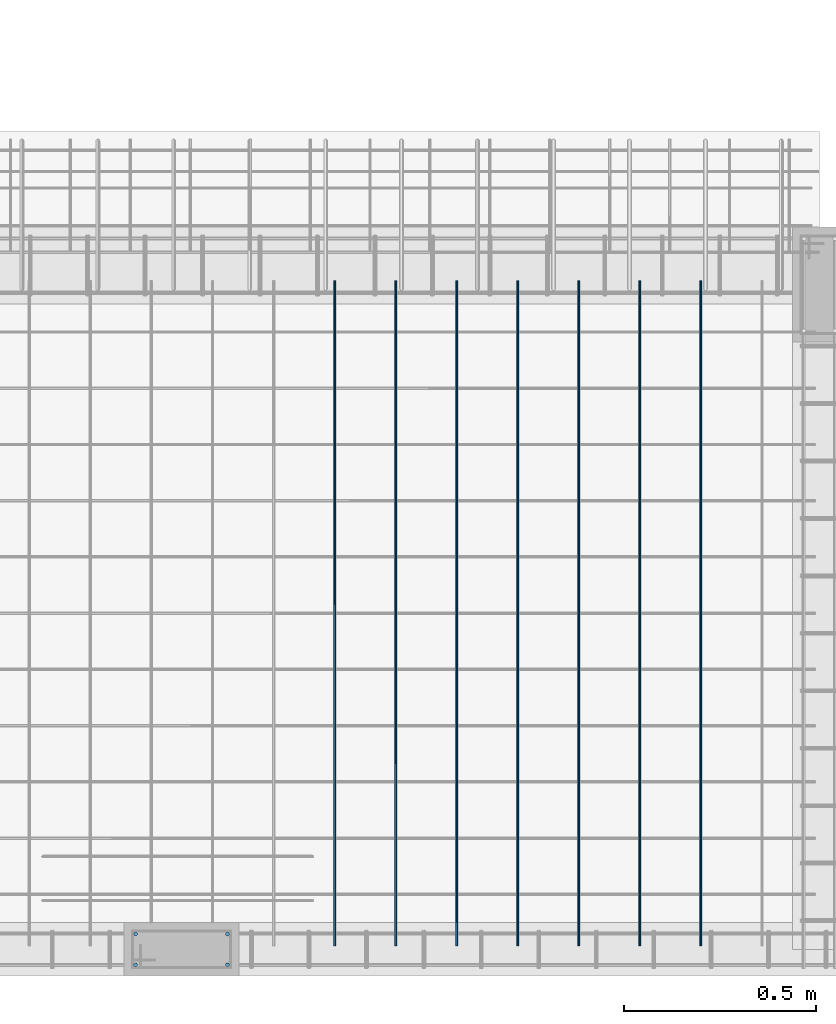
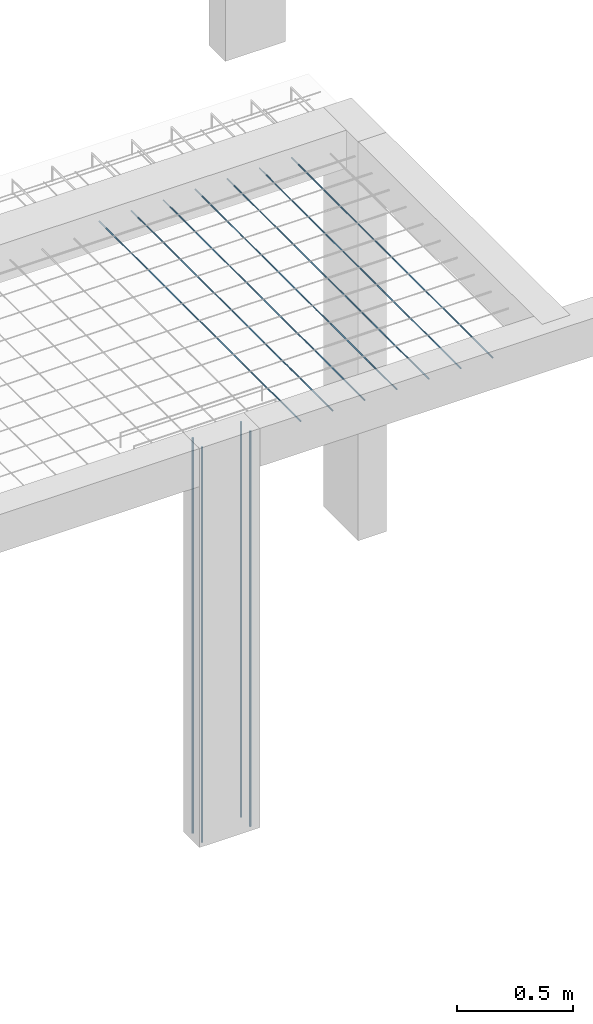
# One storey, part 41 of 236: 11 reinforcing bars.
"""IFC4 building model written with IfcOpenShell, lengths in centimetres."""

from ifc_helpers import new_model, entity, si_unit, derived_unit, frame, origin_with_axes, place, context, project, spatial, element, save


model = new_model("IFC4")

# Units and contexts
model_context = context("Model", 3, precision=1e-05, world=origin_with_axes(), identifier="Body")
ifc_project = project(units=[si_unit("LENGTHUNIT", "METRE", prefix="CENTI"), si_unit("VOLUMEUNIT", "CUBIC_METRE"), si_unit("AREAUNIT", "SQUARE_METRE"), si_unit("POWERUNIT", "WATT"), si_unit("LUMINOUSFLUXUNIT", "LUMEN"), si_unit("ELECTRICCURRENTUNIT", "AMPERE"), si_unit("PRESSUREUNIT", "PASCAL", prefix="KILO"), si_unit("MASSUNIT", "GRAM", prefix="KILO"), si_unit("PLANEANGLEUNIT", "RADIAN"), derived_unit("VOLUMETRICFLOWRATEUNIT", [(si_unit("LENGTHUNIT", "METRE"), 3), (si_unit("TIMEUNIT", "SECOND"), -1)])], contexts=[model_context])

# Site, building, storey
site_placement = place(None, frame((-4000.0, 0.0, 0.0), z_axis=(0.0, 0.0, 1.0), x_axis=(1.0, 0.0, 0.0)))
site = spatial("IfcSite", under=ifc_project, at=site_placement, Name="PADRÃO")
building_placement = place(site_placement, frame((0.0, 0.0, -14.0)))
building = spatial("IfcBuilding", under=site, at=building_placement, Name="CRECHE PRÉ-ESCOLA TIPO 2")
placement_1 = place(building_placement, origin_with_axes())
placement_2 = place(placement_1, frame((0.0, 0.0, 30.0), z_axis=(0.0, 0.0, 1.0), x_axis=(1.0, 0.0, 0.0)))
storey_placement = place(placement_2, frame((0.0, 0.0, 310.0), z_axis=(0.0, 0.0, 1.0), x_axis=(1.0, 0.0, 0.0)))
storey = spatial("IfcBuildingStorey", under=building, at=storey_placement, Name="TERREO", CompositionType="ELEMENT", Elevation=326.0)

# Reinforcing bars
for number, where, z_axis, x_axis, name in (
    (1, (3107.45875, 96.75, -109.5), (0.0, 0.0, 1.0), (1.0, 0.0, 0.0), "L3 - Inferior X"),
    (2, (3187.14625, 96.75, -109.5), (0.0, 0.0, 1.0), (1.0, 0.0, 0.0), "L3 - Inferior X"),
    (3, (3139.33375, 96.75, -109.5), (0.0, 0.0, 1.0), (1.0, 0.0, 0.0), "L3 - Inferior X"),
    (4, (3203.08375, 96.75, -109.5), (0.0, 0.0, 1.0), (1.0, 0.0, 0.0), "L3 - Inferior X"),
    (5, (3123.39625, 96.75, -109.5), (0.0, 0.0, 1.0), (1.0, 0.0, 0.0), "L3 - Inferior X"),
    (6, (3171.20875, 96.75, -109.5), (0.0, 0.0, 1.0), (1.0, 0.0, 0.0), "L3 - Inferior X"),
    (7, (3155.27125, 96.75, -109.5), (0.0, 0.0, 1.0), (1.0, 0.0, 0.0), "L3 - Inferior X"),
):
    element("IfcReinforcingBar", number, at=place(storey_placement, frame(where, z_axis=z_axis, x_axis=x_axis)), inside=storey, Name=name, BarLength=0.0, CrossSectionArea=1.9634954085e-05, NominalDiameter=0.5, PredefinedType="MAIN", context=model_context, shape_type="AdvancedSweptSolid", body=[
        entity("IfcSweptDiskSolid", entity("IfcCompositeCurve", [entity("IfcCompositeCurveSegment", "CONTINUOUS", True, entity("IfcPolyline", [entity("IfcCartesianPoint", [0.0, -86.75, -0.25]), entity("IfcCartesianPoint", [0.0, 86.75, -0.25])]))], False), 0.25),
    ])
for number, where, z_axis, x_axis, name in (
    (8, (3079.5, 5.0, -102.0), (0.0, 0.0, 1.0), (1.0, 0.0, 0.0), "P165 - Longitudinal"),
    (9, (3055.5, 5.0, -102.0), (0.0, 0.0, 1.0), (1.0, 0.0, 0.0), "P165 - Longitudinal"),
    (10, (3055.5, 13.0, -102.0), (0.0, 0.0, 1.0), (1.0, 0.0, 0.0), "P165 - Longitudinal"),
    (11, (3079.5, 13.0, -102.0), (0.0, 0.0, 1.0), (1.0, 0.0, 0.0), "P165 - Longitudinal"),
):
    element("IfcReinforcingBar", number, at=place(storey_placement, frame(where, z_axis=z_axis, x_axis=x_axis)), inside=storey, Name=name, BarLength=0.0, CrossSectionArea=7.853981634e-05, NominalDiameter=1.0, PredefinedType="MAIN", context=model_context, shape_type="AdvancedSweptSolid", body=[
        entity("IfcSweptDiskSolid", entity("IfcCompositeCurve", [entity("IfcCompositeCurveSegment", "CONTINUOUS", True, entity("IfcPolyline", [entity("IfcCartesianPoint", [0.0, 0.0, -208.0]), entity("IfcCartesianPoint", [0.0, 0.0, 0.0])]))], False), 0.5),
    ])

save(model, "model.ifc")
